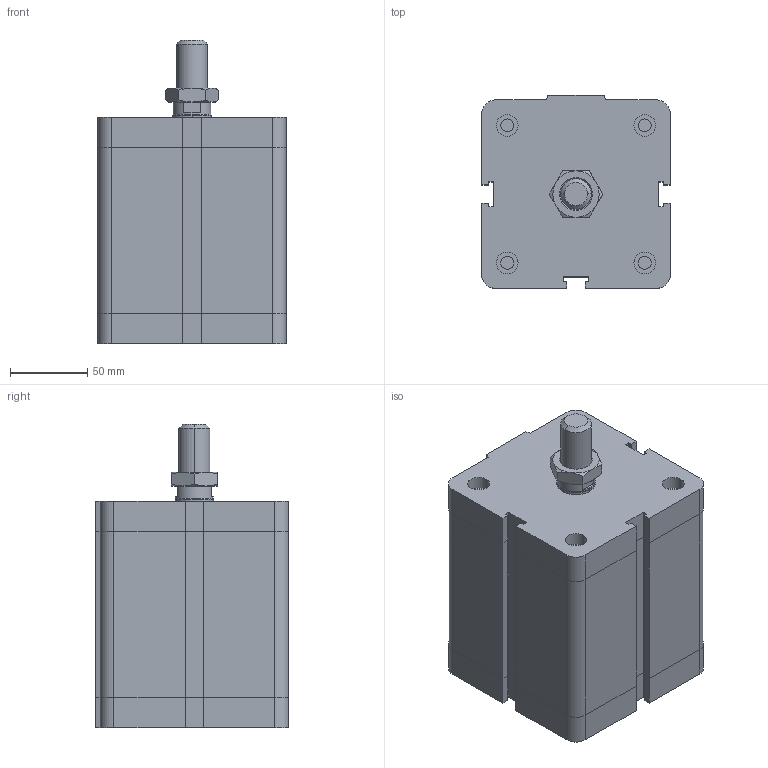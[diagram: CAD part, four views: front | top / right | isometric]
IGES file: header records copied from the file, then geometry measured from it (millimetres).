
Global section: file name: No Iges File Name specified; native system: Autodesk Inventor 2009; preprocessor: AutoDesk Inventor Iges Exporter R2009; author: rivolro1; date: 20081219.155818; units: millimetre
Bounding box: 122 x 125 x 196.5 mm (x, y, z)
Volume: 2143711.5 mm3; surface area: 138572.4 mm2
Topology: 3 solids, 3 shells, 216 faces, 472 edges, 282 vertices
Faces by surface type: plane 121, bspline 37, cylinder 20, cone 20, revolution 18
